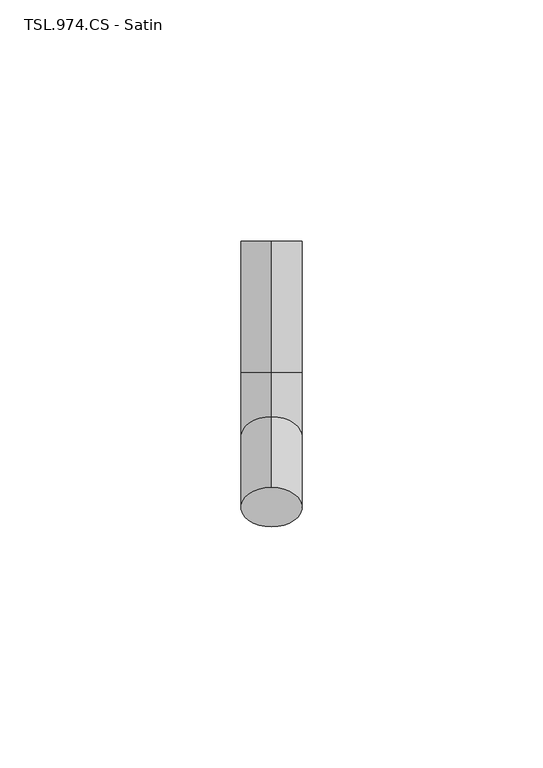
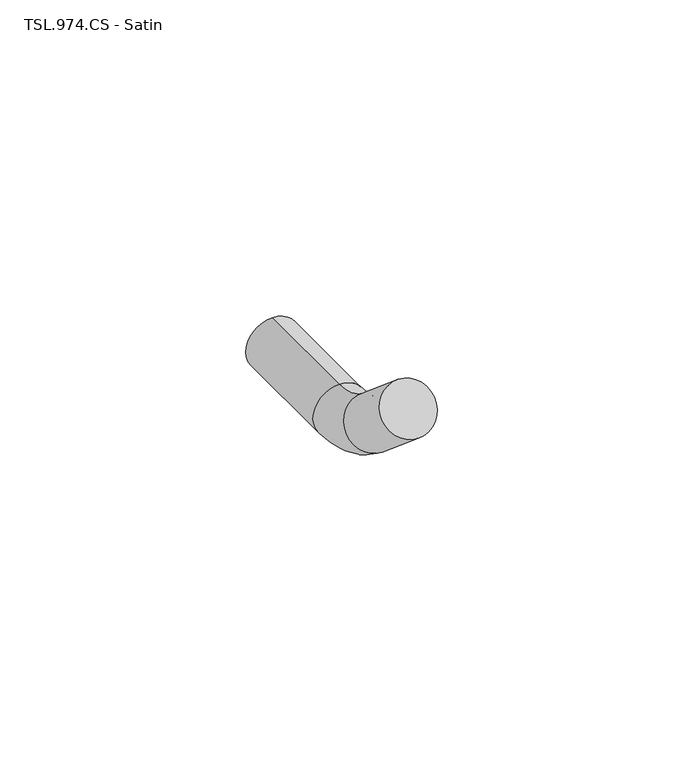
"""IFC4 building model written with IfcOpenShell, lengths in millimetres: proxy geometry, TSL_UK - TSL974 - Coat Hook : TSL.974.CS - Satin."""

from ifc_helpers import new_model, si_unit, point, frame, origin, place, context, project, spatial, circle_curve, ellipse_curve, trimmed, source, transform, mapped, element, save
from ifc_brep_helpers import plane_surface, cylinder_surface, revolved_surface, advanced_brep


def tsl_974_cs_satin_c553be42(model_context):
    return source(origin(), model_context, "Body", "AdvancedBrep", [
        advanced_brep(
        [(0.0, 0.0, 1406.35), (0.0, 0.0, 1393.65), (0.0, -27.2359833, 1406.35), (0.0, -27.2359833, 1393.65), (0.0, -44.5832139, 1399.9638756), (0.0, -36.4198113, 1409.69264), (0.0, -51.1308476, 1422.0366652), (0.0, -59.2942502, 1412.3079007)],
        [
            (0, 1, circle_curve(frame((0.0, 0.0, 1400.0), z_axis=(0.0, 1.0, 0.0), x_axis=(0.0, 0.0, -1.0)), 6.35)),
            (1, 0, circle_curve(frame((0.0, 0.0, 1400.0), z_axis=(0.0, 1.0, 0.0), x_axis=(0.0, 0.0, -1.0)), 6.35)),
            (0, 2),
            (2, 3, circle_curve(frame((0.0, -27.2359833, 1400.0), z_axis=(0.0, 1.0, 0.0), x_axis=(0.0, 0.0, -1.0)), 6.35)),
            (3, 1),
            (3, 2, circle_curve(frame((0.0, -27.2359833, 1400.0), z_axis=(0.0, 1.0, 0.0), x_axis=(0.0, 0.0, -1.0)), 6.35)),
            (4, 3, circle_curve(frame((0.0, -27.2359833, 1420.6375), z_axis=(1.0, 0.0, 0.0), x_axis=(0.0, 0.0, -1.0)), 26.9875)),
            (2, 5, circle_curve(frame((0.0, -27.2359833, 1420.6375), z_axis=(-1.0, 0.0, 0.0), x_axis=(0.0, 0.0, -1.0)), 14.2875)),
            (5, 4, circle_curve(frame((0.0, -40.5015126, 1404.8282578), z_axis=(0.0, 0.7660444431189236, -0.6427876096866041), x_axis=(0.0, -0.6427876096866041, -0.7660444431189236)), 6.35)),
            (4, 5, circle_curve(frame((0.0, -40.5015126, 1404.8282578), z_axis=(0.0, 0.7660444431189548, -0.6427876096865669), x_axis=(0.0, -0.6427876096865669, -0.7660444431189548)), 6.35)),
            (6, 7, circle_curve(frame((0.0, -55.2125489, 1417.1722829), z_axis=(0.0, -0.7660444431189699, 0.6427876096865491), x_axis=(0.0, -0.6427876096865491, -0.7660444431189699)), 6.35)),
            (7, 6, circle_curve(frame((0.0, -55.2125489, 1417.1722829), z_axis=(0.0, -0.7660444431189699, 0.6427876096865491), x_axis=(0.0, -0.6427876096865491, -0.7660444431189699)), 6.35)),
            (5, 6),
            (7, 4),
        ],
        [
            plane_surface(frame((0.0, 0.0, 1400.0), z_axis=(0.0, 1.0, 0.0), x_axis=(1.0, 0.0, 0.0))),
            cylinder_surface(frame((0.0, 0.0, 1400.0), z_axis=(0.0, 1.0, 0.0), x_axis=(0.0, 0.0, -1.0)), 6.35),
            revolved_surface(trimmed(ellipse_curve(frame((0.0, -27.2359833, 1400.0), z_axis=(0.0, 1.0, 0.0), x_axis=(0.0, 0.0, -1.0)), 6.35, 6.35), [point((0.0, -27.2359833, 1406.35))], [point((0.0, -27.2359833, 1393.65))], True, "CARTESIAN"), (0.0, -27.2359833, 1420.6375), (-1.0, 0.0, 0.0)),
            revolved_surface(trimmed(ellipse_curve(frame((0.0, -27.2359833, 1400.0), z_axis=(0.0, 1.0, 0.0), x_axis=(0.0, 0.0, -1.0)), 6.35, 6.35), [point((0.0, -27.2359833, 1393.65))], [point((0.0, -27.2359833, 1406.35))], True, "CARTESIAN"), (0.0, -27.2359833, 1420.6375), (-1.0, 0.0, 0.0)),
            plane_surface(frame((0.0, -55.2125489, 1417.1722829), z_axis=(0.0, -0.7660444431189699, 0.642787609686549), x_axis=(1.0, 0.0, 0.0))),
            cylinder_surface(frame((0.0, -40.5015126, 1404.8282578), z_axis=(0.0, 0.7660444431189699, -0.6427876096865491), x_axis=(0.0, -0.6427876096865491, -0.7660444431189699)), 6.35),
        ],
        [
            (0, [[1, 2]]),
            (1, [[-1, 3, 4, 5]]),
            (1, [[-2, -5, 6, -3]]),
            (2, [[7, -4, 8, 9]]),
            (3, [[-8, -6, -7, 10]]),
            (4, [[11, 12]]),
            (5, [[-9, 13, -12, 14]]),
            (5, [[-10, -14, -11, -13]]),
        ],
    ),
    ])


if __name__ == "__main__":
    model = new_model("IFC4")
    model_context = context("Model", 3, world=origin())
    ifc_project = project(units=[si_unit("LENGTHUNIT", "METRE", prefix="MILLI")], contexts=[model_context])
    site = spatial("IfcSite", under=ifc_project)
    building = spatial("IfcBuilding", under=site)
    placement = place(None, origin())
    tsl_974_cs_satin_shape = tsl_974_cs_satin_c553be42(model_context)
    element("IfcBuildingElementProxy", 1, Name="TSL_UK - TSL974 - Coat Hook : TSL.974.CS - Satin", ObjectType="TSL_UK - TSL974 - Coat Hook : TSL.974.CS - Satin", at=placement, inside=building, context=model_context, shape_type="MappedRepresentation", body=[
        mapped(tsl_974_cs_satin_shape, transform((0.0, 0.0, 0.0), x_axis=(1.0, 0.0, 0.0), y_axis=(0.0, 1.0, 0.0), z_axis=(0.0, 0.0, 1.0))),
    ])
    save(model, "model.ifc")
